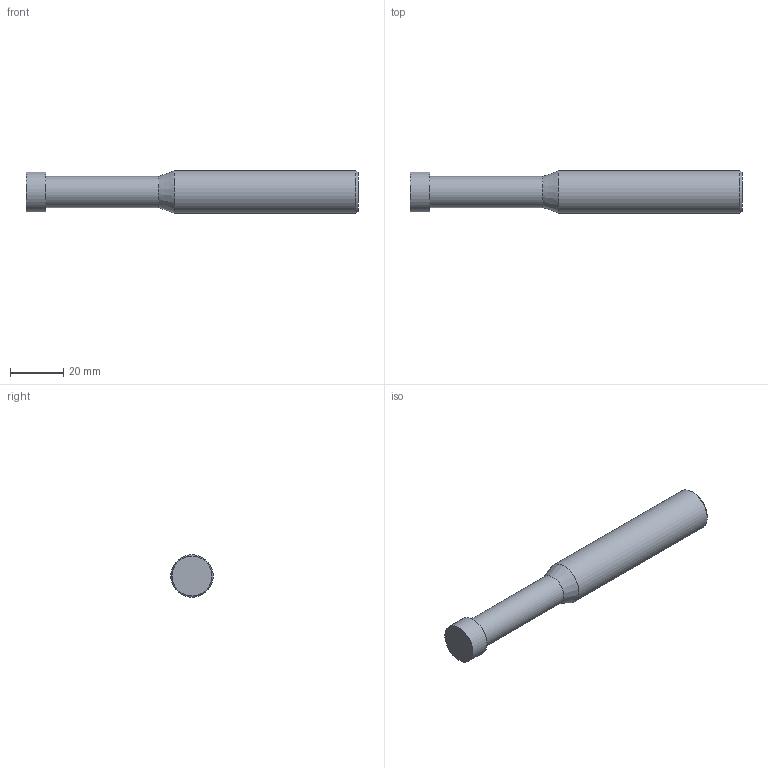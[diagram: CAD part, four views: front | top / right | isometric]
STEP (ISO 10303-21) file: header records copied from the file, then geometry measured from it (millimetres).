
FILE_DESCRIPTION(/* description */ (''),/* implementation_level */ '2;1');
FILE_NAME(/* name */ 'HSXDT-2.5-50 16125.stp',/* time_stamp */ '2026-02-26T15:37:51+08:00',/* author */ (''),/* organization */ (''),/* preprocessor_version */ 'ST-DEVELOPER v16',/* originating_system */ 'SIEMENS PLM Software NX 10.0',/* authorisation */ '');
FILE_SCHEMA (('CONFIG_CONTROL_DESIGN'));
Length unit declared in the file: millimetre
Products named in the file (1): HSXDT-2.5-50 16125_dxf
Bounding box: 125 x 16 x 16 mm (x, y, z)
Volume: 20668.2 mm3; surface area: 6084.7 mm2
Topology: 1 solids, 1 shells, 8 faces, 12 edges, 7 vertices
Faces by surface type: plane 3, cylinder 3, cone 2
Full cylindrical faces by diameter (mm): 11.7 x1, 15 x1, 16 x1
Entity records: 238 total; most frequent: DIRECTION 32, CARTESIAN_POINT 23, AXIS2_PLACEMENT_3D 16, EDGE_LOOP 14, ORIENTED_EDGE 14, FACE_BOUND 12, ADVANCED_FACE 8, PERSON_AND_ORGANIZATION 7
